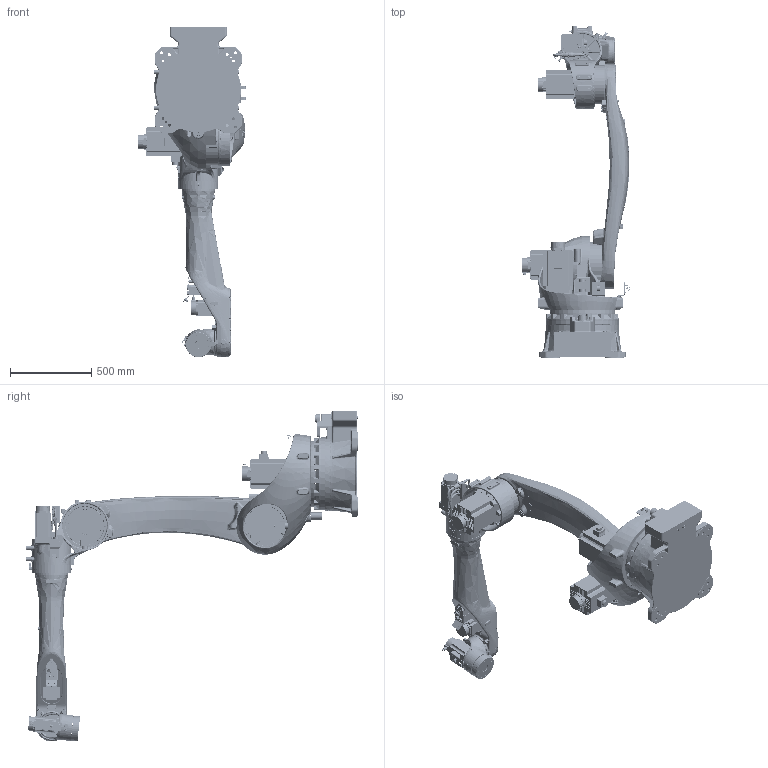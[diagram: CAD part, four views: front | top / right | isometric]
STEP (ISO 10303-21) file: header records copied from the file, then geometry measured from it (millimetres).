
FILE_DESCRIPTION (( 'STEP AP203' ), '1' );
FILE_NAME ('CRP-RA27-50.STEP', '2022-03-02T01:44:00', ( 'Microsoft' ), ( 'Microsoft' ), 'SwSTEP 2.0', 'SolidWorks 2016', '' );
FILE_SCHEMA (( 'CONFIG_CONTROL_DESIGN' ));
Products named in the file (8): CR270300 湮旋郪璃; CRP-RA27-50; CR270500 苤旋郪璃; CR220200 殈窒郪璃; CR220601 藺傷楊擘; CR220100 菁釱郪璃; CR220600 勂窒郪璃; CR220400 紵窒郪璃
Assembly tree (7 placements, depth 2):
  CRP-RA27-50
    CR220100 菁釱郪璃
    CR220200 殈窒郪璃
    CR220400 紵窒郪璃
    CR220600 勂窒郪璃
    CR270300 湮旋郪璃
    CR270500 苤旋郪璃
    CR220601 藺傷楊擘
Bounding box: 666 x 2045.25 x 2037.77 mm (x, y, z)
Surface area: 7718401.1 mm2 (no closed solid volume)
Topology: 0 solids, 396 shells, 7127 faces, 27438 edges, 19858 vertices
Faces by surface type: plane 2444, cylinder 2307, bspline 1586, torus 479, cone 261, sphere 50
Entity records: 475784 total; most frequent: CARTESIAN_POINT 264059, ORIENTED_EDGE 41865, DIRECTION 40078, EDGE_CURVE 27278, VERTEX_POINT 19853, AXIS2_PLACEMENT_3D 14136, LINE 11806, VECTOR 11806
